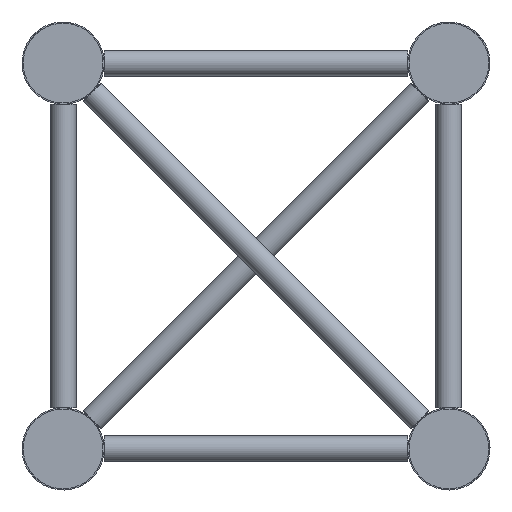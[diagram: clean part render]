
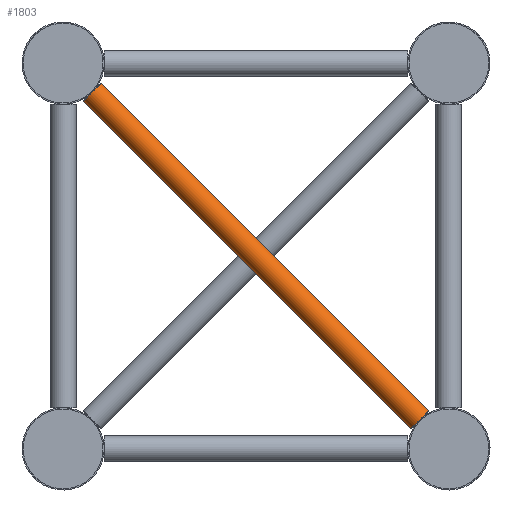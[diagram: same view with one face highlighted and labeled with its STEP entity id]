
A CAD part, left-side view. The second image highlights one B-rep face of the part: STEP entity #1803.
In plain terms, the highlighted cylindrical face has radius 8 mm (diameter 16 mm), a full revolution.
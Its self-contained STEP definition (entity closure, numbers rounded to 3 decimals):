
#98=B_SPLINE_CURVE_WITH_KNOTS('',3,(#2945,#2946,#2947,#2948,#2949,#2950),
 .UNSPECIFIED.,.F.,.F.,(4,2,4),(1.187,1.214,1.242),
 .UNSPECIFIED.);
#100=B_SPLINE_CURVE_WITH_KNOTS('',3,(#2963,#2964,#2965,#2966,#2967,#2968),
 .UNSPECIFIED.,.F.,.F.,(4,2,4),(3.616,3.643,3.67),
 .UNSPECIFIED.);
#105=B_SPLINE_CURVE_WITH_KNOTS('',3,(#3105,#3106,#3107,#3108,#3109,#3110),
 .UNSPECIFIED.,.F.,.F.,(4,2,4),(1.187,1.214,1.242),
 .UNSPECIFIED.);
#106=B_SPLINE_CURVE_WITH_KNOTS('',3,(#3114,#3115,#3116,#3117,#3118,#3119),
 .UNSPECIFIED.,.F.,.F.,(4,2,4),(3.616,3.643,3.67),
 .UNSPECIFIED.);
#178=CIRCLE('',#2018,8.);
#179=CIRCLE('',#2020,8.);
#180=CIRCLE('',#2021,8.);
#181=CIRCLE('',#2022,8.);
#281=FACE_BOUND('',#642,.T.);
#351=CYLINDRICAL_SURFACE('',#2019,8.);
#454=FACE_OUTER_BOUND('',#641,.T.);
#641=EDGE_LOOP('',(#1326,#1327,#1328,#1329));
#642=EDGE_LOOP('',(#1330,#1331,#1332,#1333));
#833=VERTEX_POINT('',#2942);
#834=VERTEX_POINT('',#2944);
#837=VERTEX_POINT('',#2960);
#838=VERTEX_POINT('',#2962);
#854=VERTEX_POINT('',#3103);
#855=VERTEX_POINT('',#3104);
#856=VERTEX_POINT('',#3111);
#857=VERTEX_POINT('',#3113);
#993=EDGE_CURVE('',#834,#833,#98,.T.);
#997=EDGE_CURVE('',#838,#837,#100,.T.);
#1023=EDGE_CURVE('',#833,#838,#178,.T.);
#1024=EDGE_CURVE('',#854,#855,#105,.T.);
#1025=EDGE_CURVE('',#855,#856,#179,.T.);
#1026=EDGE_CURVE('',#856,#857,#106,.T.);
#1027=EDGE_CURVE('',#857,#854,#180,.T.);
#1028=EDGE_CURVE('',#837,#834,#181,.T.);
#1326=ORIENTED_EDGE('',*,*,#1024,.T.);
#1327=ORIENTED_EDGE('',*,*,#1025,.T.);
#1328=ORIENTED_EDGE('',*,*,#1026,.T.);
#1329=ORIENTED_EDGE('',*,*,#1027,.T.);
#1330=ORIENTED_EDGE('',*,*,#993,.T.);
#1331=ORIENTED_EDGE('',*,*,#1023,.T.);
#1332=ORIENTED_EDGE('',*,*,#997,.T.);
#1333=ORIENTED_EDGE('',*,*,#1028,.T.);
#1803=ADVANCED_FACE('',(#454,#281),#351,.T.);
#2018=AXIS2_PLACEMENT_3D('',#3101,#2433,#2434);
#2019=AXIS2_PLACEMENT_3D('',#3102,#2435,#2436);
#2020=AXIS2_PLACEMENT_3D('',#3112,#2437,#2438);
#2021=AXIS2_PLACEMENT_3D('',#3120,#2439,#2440);
#2022=AXIS2_PLACEMENT_3D('',#3121,#2441,#2442);
#2433=DIRECTION('center_axis',(0.,-0.707,
-0.707));
#2434=DIRECTION('ref_axis',(0.,0.707,-0.707));
#2435=DIRECTION('center_axis',(0.,0.707,
0.707));
#2436=DIRECTION('ref_axis',(0.,0.707,-0.707));
#2437=DIRECTION('center_axis',(0.,0.707,
0.707));
#2438=DIRECTION('ref_axis',(0.,0.707,-0.707));
#2439=DIRECTION('center_axis',(0.,0.707,
0.707));
#2440=DIRECTION('ref_axis',(0.,0.707,-0.707));
#2441=DIRECTION('center_axis',(0.,-0.707,
-0.707));
#2442=DIRECTION('ref_axis',(0.,0.707,-0.707));
#2942=CARTESIAN_POINT('',(52.005,221.164,-18.224));
#2944=CARTESIAN_POINT('',(52.005,220.776,-17.836));
#2945=CARTESIAN_POINT('Ctrl Pts',(52.005,220.776,-17.836));
#2946=CARTESIAN_POINT('Ctrl Pts',(52.002,220.84,-17.902));
#2947=CARTESIAN_POINT('Ctrl Pts',(52.,220.904,-17.967));
#2948=CARTESIAN_POINT('Ctrl Pts',(52.,221.033,-18.096));
#2949=CARTESIAN_POINT('Ctrl Pts',(52.002,221.098,-18.16));
#2950=CARTESIAN_POINT('Ctrl Pts',(52.005,221.164,-18.224));
#2960=CARTESIAN_POINT('',(67.995,220.776,-17.836));
#2962=CARTESIAN_POINT('',(67.995,221.164,-18.224));
#2963=CARTESIAN_POINT('Ctrl Pts',(67.995,221.164,-18.224));
#2964=CARTESIAN_POINT('Ctrl Pts',(67.998,221.098,-18.16));
#2965=CARTESIAN_POINT('Ctrl Pts',(68.,221.033,-18.096));
#2966=CARTESIAN_POINT('Ctrl Pts',(68.,220.904,-17.967));
#2967=CARTESIAN_POINT('Ctrl Pts',(67.998,220.84,-17.902));
#2968=CARTESIAN_POINT('Ctrl Pts',(67.995,220.776,-17.836));
#3101=CARTESIAN_POINT('Origin',(60.,220.97,-18.03));
#3102=CARTESIAN_POINT('Origin',(60.,119.5,-119.5));
#3103=CARTESIAN_POINT('',(67.995,17.836,-220.776));
#3104=CARTESIAN_POINT('',(67.995,18.224,-221.164));
#3105=CARTESIAN_POINT('Ctrl Pts',(67.995,17.836,-220.776));
#3106=CARTESIAN_POINT('Ctrl Pts',(67.998,17.902,-220.84));
#3107=CARTESIAN_POINT('Ctrl Pts',(68.,17.967,-220.904));
#3108=CARTESIAN_POINT('Ctrl Pts',(68.,18.096,-221.033));
#3109=CARTESIAN_POINT('Ctrl Pts',(67.998,18.16,-221.098));
#3110=CARTESIAN_POINT('Ctrl Pts',(67.995,18.224,-221.164));
#3111=CARTESIAN_POINT('',(52.005,18.224,-221.164));
#3112=CARTESIAN_POINT('Origin',(60.,18.03,-220.97));
#3113=CARTESIAN_POINT('',(52.005,17.836,-220.776));
#3114=CARTESIAN_POINT('Ctrl Pts',(52.005,18.224,-221.164));
#3115=CARTESIAN_POINT('Ctrl Pts',(52.002,18.16,-221.098));
#3116=CARTESIAN_POINT('Ctrl Pts',(52.,18.096,-221.033));
#3117=CARTESIAN_POINT('Ctrl Pts',(52.,17.967,-220.904));
#3118=CARTESIAN_POINT('Ctrl Pts',(52.002,17.902,-220.84));
#3119=CARTESIAN_POINT('Ctrl Pts',(52.005,17.836,-220.776));
#3120=CARTESIAN_POINT('Origin',(60.,18.03,-220.97));
#3121=CARTESIAN_POINT('Origin',(60.,220.97,-18.03));
